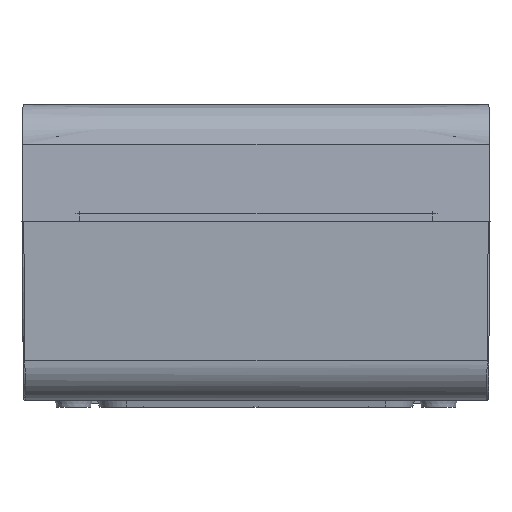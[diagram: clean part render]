
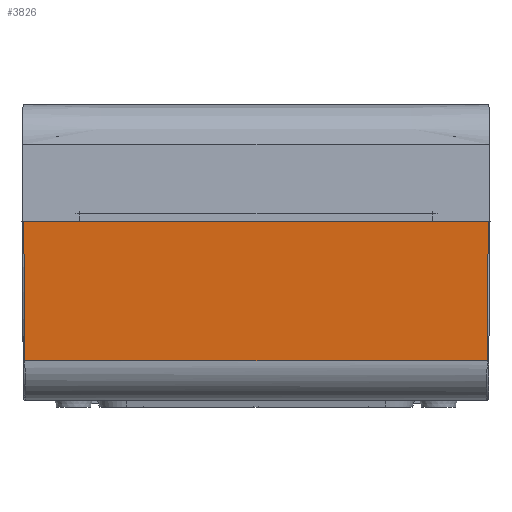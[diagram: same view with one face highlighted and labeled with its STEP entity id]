
A CAD part, front view. The second image highlights one B-rep face of the part: STEP entity #3826.
In plain terms, the highlighted planar face has unit normal (0, -0.999, -0.035).
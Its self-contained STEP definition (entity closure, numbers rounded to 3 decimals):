
#3826=ADVANCED_FACE('',(#6285),#4953,.T.);
#4953=PLANE('',#31398);
#6285=FACE_OUTER_BOUND('',#8028,.T.);
#8028=EDGE_LOOP('',(#15313,#15314,#15315,#15316));
#15313=ORIENTED_EDGE('',*,*,#24256,.T.);
#15314=ORIENTED_EDGE('',*,*,#24257,.T.);
#15315=ORIENTED_EDGE('',*,*,#24206,.F.);
#15316=ORIENTED_EDGE('',*,*,#24258,.T.);
#20468=VERTEX_POINT('',#63100);
#20469=VERTEX_POINT('',#63102);
#20512=VERTEX_POINT('',#63205);
#20513=VERTEX_POINT('',#63206);
#24206=EDGE_CURVE('',#20468,#20469,#27079,.T.);
#24256=EDGE_CURVE('',#20512,#20513,#27110,.T.);
#24257=EDGE_CURVE('',#20513,#20469,#27111,.T.);
#24258=EDGE_CURVE('',#20468,#20512,#27112,.T.);
#27079=LINE('',#63101,#29323);
#27110=LINE('',#63204,#29354);
#27111=LINE('',#63207,#29355);
#27112=LINE('',#63208,#29356);
#29323=VECTOR('',#36630,1.);
#29354=VECTOR('',#36711,1.);
#29355=VECTOR('',#36712,1.);
#29356=VECTOR('',#36713,1.);
#31398=AXIS2_PLACEMENT_3D('',#63209,#36714,#36715);
#36630=DIRECTION('',(1.,0.,0.));
#36711=DIRECTION('',(1.,0.,0.));
#36712=DIRECTION('',(0.009,-0.035,0.999));
#36713=DIRECTION('',(0.009,0.035,-0.999));
#36714=DIRECTION('',(0.,-0.999,-0.035));
#36715=DIRECTION('',(0.,-0.035,0.999));
#63100=CARTESIAN_POINT('',(-67.5,-440.,-52.));
#63101=CARTESIAN_POINT('',(-68.,-440.,-52.));
#63102=CARTESIAN_POINT('',(67.5,-440.,-52.));
#63204=CARTESIAN_POINT('',(-68.,-438.588,-92.419));
#63205=CARTESIAN_POINT('',(-67.147,-438.588,-92.419));
#63206=CARTESIAN_POINT('',(67.147,-438.588,-92.419));
#63207=CARTESIAN_POINT('',(67.5,-440.,-51.996));
#63208=CARTESIAN_POINT('',(-67.5,-440.,-51.996));
#63209=CARTESIAN_POINT('',(-68.,-440.,-52.));
